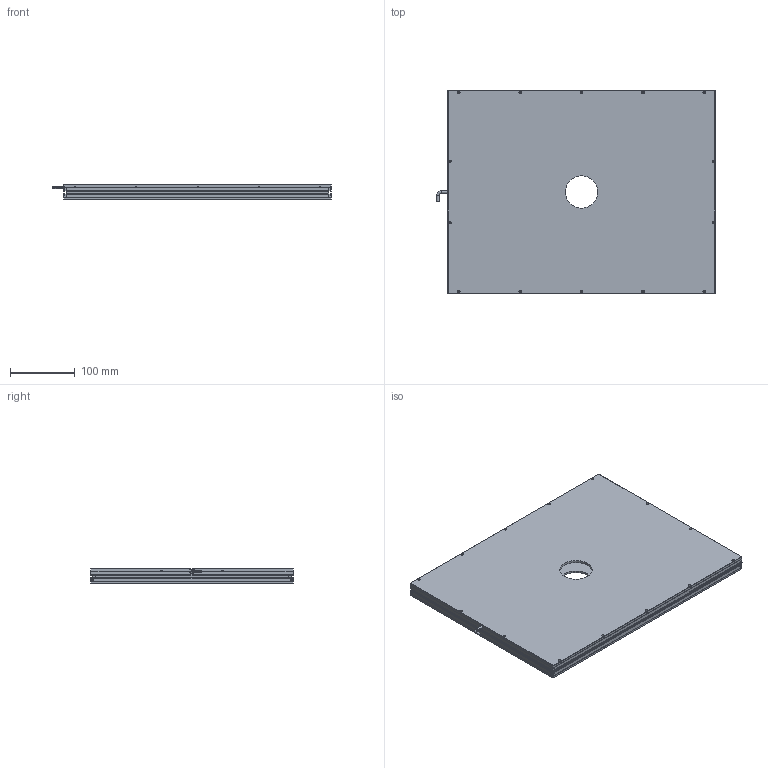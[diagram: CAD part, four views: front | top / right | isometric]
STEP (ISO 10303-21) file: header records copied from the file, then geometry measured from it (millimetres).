
FILE_DESCRIPTION (( 'STEP AP203' ), '1' );
FILE_NAME ('CRT-2KFLD400300Y50-¼òÒ×3DÍ¼.STEP', '2021-11-25T01:00:17', ( 'Admin' ), ( '' ), 'SwSTEP 2.0', 'SolidWorks 2018', '' );
FILE_SCHEMA (( 'CONFIG_CONTROL_DESIGN' ));
Length unit declared in the file: millimetre
Products named in the file (1): CRT-2KFLD400300Y50-潠眢3D芞
Bounding box: 431.25 x 314 x 23 mm (x, y, z)
Surface area: 678457.2 mm2 (no closed solid volume)
Topology: 0 solids, 8 shells, 221 faces, 764 edges, 536 vertices
Faces by surface type: cylinder 92, plane 90, cone 37, bspline 2
Entity records: 8495 total; most frequent: CARTESIAN_POINT 1656, DIRECTION 1476, ORIENTED_EDGE 1235, EDGE_CURVE 764, VERTEX_POINT 536, AXIS2_PLACEMENT_3D 512, VECTOR 452, LINE 452
